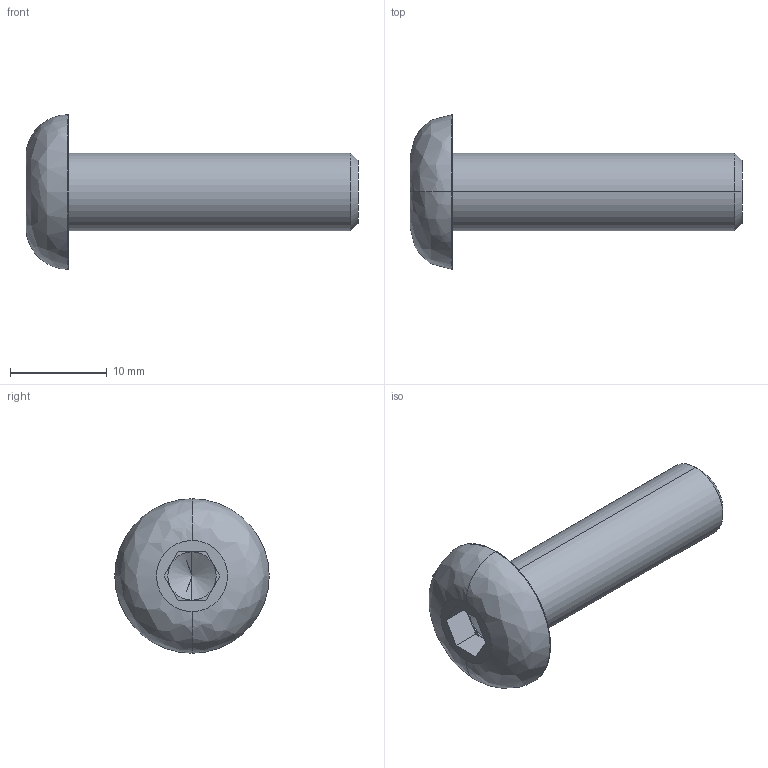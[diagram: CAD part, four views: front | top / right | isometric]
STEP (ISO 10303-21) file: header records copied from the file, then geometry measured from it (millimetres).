
FILE_DESCRIPTION (( 'STEP AP214' ), '1' );
FILE_NAME ('ISO7380_8x30.STEP', '2016-05-18T14:44:14', ( '' ), ( '' ), 'SwSTEP 2.0', 'SolidWorks 2014', '' );
FILE_SCHEMA (( 'AUTOMOTIVE_DESIGN' ));
Length unit declared in the file: millimetre
Products named in the file (1): ISO7380_8x30
Bounding box: 34.4 x 16 x 16 mm (x, y, z)
Volume: 2135.4 mm3; surface area: 1317.8 mm2
Topology: 1 solids, 1 shells, 27 faces, 59 edges, 34 vertices
Faces by surface type: plane 15, cylinder 6, cone 4, bspline 2
Entity records: 771 total; most frequent: CARTESIAN_POINT 158, DIRECTION 126, ORIENTED_EDGE 114, EDGE_CURVE 57, AXIS2_PLACEMENT_3D 46, LINE 34, VERTEX_POINT 34, VECTOR 34
